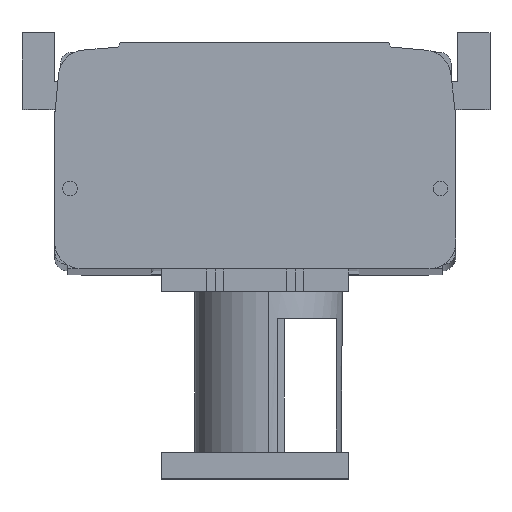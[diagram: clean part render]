
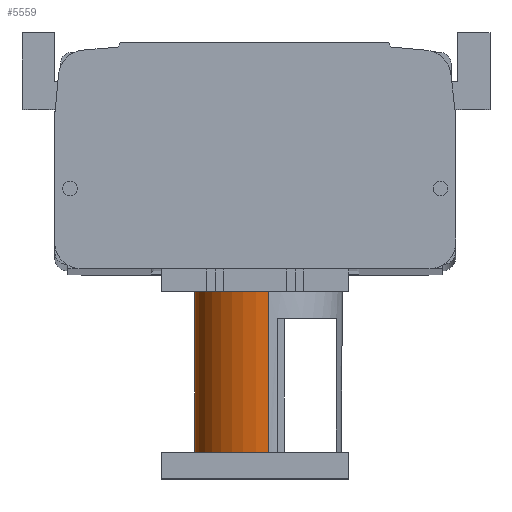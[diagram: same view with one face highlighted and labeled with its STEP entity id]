
A CAD part, top view. The second image highlights one B-rep face of the part: STEP entity #5559.
In plain terms, the highlighted cylindrical face has radius 27.5 mm (diameter 55 mm), a partial arc.
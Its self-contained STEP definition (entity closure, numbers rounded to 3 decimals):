
#2020 = VERTEX_POINT ( 'NONE', #7618 ) ;
#2814 = VERTEX_POINT ( 'NONE', #33033 ) ;
#2872 = VECTOR ( 'NONE', #31956, 1000. ) ;
#5247 = DIRECTION ( 'NONE',  ( 0., 0., 1. ) ) ;
#5559 = ADVANCED_FACE ( 'NONE', ( #33969 ), #33083, .T. ) ;
#6093 = CARTESIAN_POINT ( 'NONE',  ( 7.5, 40., 70. ) ) ;
#7008 = VERTEX_POINT ( 'NONE', #34746 ) ;
#7618 = CARTESIAN_POINT ( 'NONE',  ( 7.5, 40., 10. ) ) ;
#8921 = DIRECTION ( 'NONE',  ( 0., 0., -1. ) ) ;
#12079 = EDGE_CURVE ( 'NONE', #2814, #2020, #34658, .T. ) ;
#14520 = CARTESIAN_POINT ( 'NONE',  ( 35., 40., 70. ) ) ;
#14831 = AXIS2_PLACEMENT_3D ( 'NONE', #30372, #27409, #33214 ) ;
#14965 = ORIENTED_EDGE ( 'NONE', *, *, #31367, .F. ) ;
#14984 = VERTEX_POINT ( 'NONE', #29422 ) ;
#16575 = ORIENTED_EDGE ( 'NONE', *, *, #18621, .F. ) ;
#17385 = DIRECTION ( 'NONE',  ( 1., 0., 0. ) ) ;
#17824 = LINE ( 'NONE', #29126, #2872 ) ;
#18621 = EDGE_CURVE ( 'NONE', #2814, #14984, #27646, .T. ) ;
#19623 = VECTOR ( 'NONE', #8921, 1000. ) ;
#19691 = CIRCLE ( 'NONE', #35677, 27.5 ) ;
#22079 = CARTESIAN_POINT ( 'NONE',  ( 35., 40., 10. ) ) ;
#22764 = EDGE_LOOP ( 'NONE', ( #14965, #16575, #32592, #32001 ) ) ;
#22871 = EDGE_CURVE ( 'NONE', #2020, #7008, #19691, .T. ) ;
#24963 = DIRECTION ( 'NONE',  ( -1., 0., 0. ) ) ;
#27409 = DIRECTION ( 'NONE',  ( 0., 0., -1. ) ) ;
#27646 = CIRCLE ( 'NONE', #30582, 27.5 ) ;
#29126 = CARTESIAN_POINT ( 'NONE',  ( 62.5, 40., 70. ) ) ;
#29422 = CARTESIAN_POINT ( 'NONE',  ( 62.5, 40., 70. ) ) ;
#30372 = CARTESIAN_POINT ( 'NONE',  ( 35., 40., 70. ) ) ;
#30582 = AXIS2_PLACEMENT_3D ( 'NONE', #14520, #34274, #17385 ) ;
#31367 = EDGE_CURVE ( 'NONE', #14984, #7008, #17824, .T. ) ;
#31956 = DIRECTION ( 'NONE',  ( 0., 0., -1. ) ) ;
#32001 = ORIENTED_EDGE ( 'NONE', *, *, #22871, .T. ) ;
#32592 = ORIENTED_EDGE ( 'NONE', *, *, #12079, .T. ) ;
#33033 = CARTESIAN_POINT ( 'NONE',  ( 7.5, 40., 70. ) ) ;
#33083 = CYLINDRICAL_SURFACE ( 'NONE', #14831, 27.5 ) ;
#33214 = DIRECTION ( 'NONE',  ( -1., 0., 0. ) ) ;
#33969 = FACE_OUTER_BOUND ( 'NONE', #22764, .T. ) ;
#34274 = DIRECTION ( 'NONE',  ( 0., 0., 1. ) ) ;
#34658 = LINE ( 'NONE', #6093, #19623 ) ;
#34746 = CARTESIAN_POINT ( 'NONE',  ( 62.5, 40., 10. ) ) ;
#35677 = AXIS2_PLACEMENT_3D ( 'NONE', #22079, #5247, #24963 ) ;
